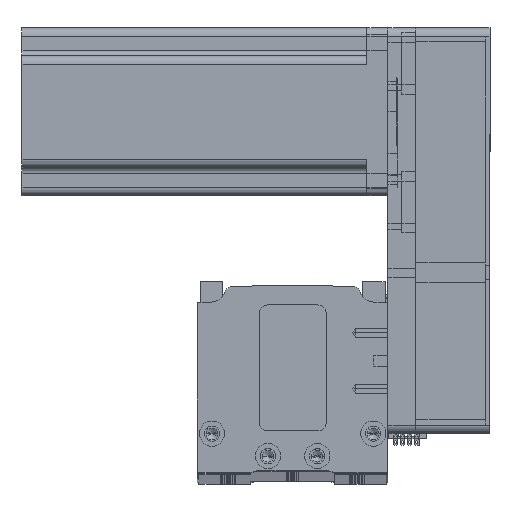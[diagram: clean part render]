
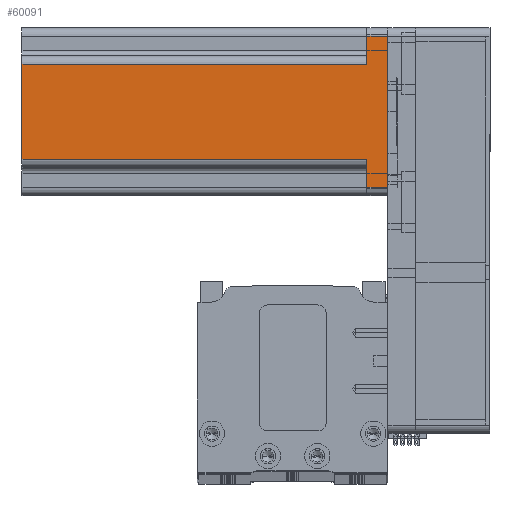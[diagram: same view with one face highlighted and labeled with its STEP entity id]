
A CAD part, top view. The second image highlights one B-rep face of the part: STEP entity #60091.
In plain terms, the highlighted planar face has unit normal (0, 0, 1) as drawn and (0, -1, 0) by its records, which use the part's own axes.
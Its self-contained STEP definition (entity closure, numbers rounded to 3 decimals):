
#582 = CARTESIAN_POINT ( 'NONE',  ( -27., -30., 7.5 ) ) ;
#1239 = EDGE_CURVE ( 'NONE', #48430, #41632, #9433, .T. ) ;
#2357 = VECTOR ( 'NONE', #40440, 1000. ) ;
#3989 = DIRECTION ( 'NONE',  ( 0., 0., 1. ) ) ;
#4773 = ORIENTED_EDGE ( 'NONE', *, *, #48860, .T. ) ;
#5282 = CARTESIAN_POINT ( 'NONE',  ( 17., -30., 7.5 ) ) ;
#6566 = EDGE_CURVE ( 'NONE', #22320, #49898, #38811, .T. ) ;
#8190 = DIRECTION ( 'NONE',  ( 1., 0., 0. ) ) ;
#9433 = LINE ( 'NONE', #35932, #37777 ) ;
#10395 = CARTESIAN_POINT ( 'NONE',  ( 27., -30., 130.7 ) ) ;
#11370 = VECTOR ( 'NONE', #25682, 1000. ) ;
#11474 = VERTEX_POINT ( 'NONE', #43315 ) ;
#15448 = FACE_OUTER_BOUND ( 'NONE', #47458, .T. ) ;
#15662 = DIRECTION ( 'NONE',  ( 0., 1., 0. ) ) ;
#16541 = LINE ( 'NONE', #61700, #2357 ) ;
#17163 = ORIENTED_EDGE ( 'NONE', *, *, #67744, .T. ) ;
#18056 = CARTESIAN_POINT ( 'NONE',  ( -17., -30., 130.7 ) ) ;
#18655 = CARTESIAN_POINT ( 'NONE',  ( 30., -30., 0. ) ) ;
#19705 = CARTESIAN_POINT ( 'NONE',  ( 30., -30., 130.7 ) ) ;
#22136 = CARTESIAN_POINT ( 'NONE',  ( -17., -30., 7.5 ) ) ;
#22320 = VERTEX_POINT ( 'NONE', #32252 ) ;
#23359 = LINE ( 'NONE', #10395, #35913 ) ;
#23563 = VERTEX_POINT ( 'NONE', #45493 ) ;
#24409 = LINE ( 'NONE', #19705, #36944 ) ;
#24634 = VECTOR ( 'NONE', #28547, 1000. ) ;
#25587 = ORIENTED_EDGE ( 'NONE', *, *, #1239, .T. ) ;
#25682 = DIRECTION ( 'NONE',  ( 0., 0., -1. ) ) ;
#26135 = PLANE ( 'NONE',  #47982 ) ;
#27554 = ORIENTED_EDGE ( 'NONE', *, *, #52899, .T. ) ;
#28547 = DIRECTION ( 'NONE',  ( 0., 0., -1. ) ) ;
#29235 = CARTESIAN_POINT ( 'NONE',  ( -20., -30., 7.5 ) ) ;
#31033 = CARTESIAN_POINT ( 'NONE',  ( -27., -30., 130.7 ) ) ;
#31082 = ORIENTED_EDGE ( 'NONE', *, *, #34842, .F. ) ;
#31769 = EDGE_CURVE ( 'NONE', #11474, #23563, #23359, .T. ) ;
#32252 = CARTESIAN_POINT ( 'NONE',  ( -17., -30., 130.7 ) ) ;
#33969 = CARTESIAN_POINT ( 'NONE',  ( 17., -30., 130.7 ) ) ;
#34842 = EDGE_CURVE ( 'NONE', #53542, #49898, #51114, .T. ) ;
#35913 = VECTOR ( 'NONE', #53040, 1000. ) ;
#35932 = CARTESIAN_POINT ( 'NONE',  ( 17., -30., 130.7 ) ) ;
#36944 = VECTOR ( 'NONE', #62419, 1000. ) ;
#37777 = VECTOR ( 'NONE', #3989, 1000. ) ;
#38811 = LINE ( 'NONE', #18056, #24634 ) ;
#39746 = ORIENTED_EDGE ( 'NONE', *, *, #31769, .T. ) ;
#40440 = DIRECTION ( 'NONE',  ( -1., 0., 0. ) ) ;
#41632 = VERTEX_POINT ( 'NONE', #33969 ) ;
#43315 = CARTESIAN_POINT ( 'NONE',  ( 27., -30., 0. ) ) ;
#45493 = CARTESIAN_POINT ( 'NONE',  ( 27., -30., 7.5 ) ) ;
#47458 = EDGE_LOOP ( 'NONE', ( #60602, #49615, #31082, #4773, #17163, #39746, #27554, #25587 ) ) ;
#47610 = CARTESIAN_POINT ( 'NONE',  ( 30., -30., 130.7 ) ) ;
#47982 = AXIS2_PLACEMENT_3D ( 'NONE', #47610, #15662, #52944 ) ;
#48430 = VERTEX_POINT ( 'NONE', #5282 ) ;
#48860 = EDGE_CURVE ( 'NONE', #53542, #52140, #68100, .T. ) ;
#49438 = VECTOR ( 'NONE', #55840, 1000. ) ;
#49615 = ORIENTED_EDGE ( 'NONE', *, *, #6566, .T. ) ;
#49898 = VERTEX_POINT ( 'NONE', #22136 ) ;
#51114 = LINE ( 'NONE', #29235, #49438 ) ;
#52140 = VERTEX_POINT ( 'NONE', #65283 ) ;
#52899 = EDGE_CURVE ( 'NONE', #23563, #48430, #16541, .T. ) ;
#52944 = DIRECTION ( 'NONE',  ( -1., 0., 0. ) ) ;
#53040 = DIRECTION ( 'NONE',  ( 0., 0., 1. ) ) ;
#53542 = VERTEX_POINT ( 'NONE', #582 ) ;
#55840 = DIRECTION ( 'NONE',  ( 1., 0., 0. ) ) ;
#60091 = ADVANCED_FACE ( 'NONE', ( #15448 ), #26135, .F. ) ;
#60602 = ORIENTED_EDGE ( 'NONE', *, *, #61414, .F. ) ;
#61414 = EDGE_CURVE ( 'NONE', #22320, #41632, #24409, .T. ) ;
#61700 = CARTESIAN_POINT ( 'NONE',  ( 20., -30., 7.5 ) ) ;
#62419 = DIRECTION ( 'NONE',  ( 1., 0., 0. ) ) ;
#63677 = VECTOR ( 'NONE', #8190, 1000. ) ;
#65283 = CARTESIAN_POINT ( 'NONE',  ( -27., -30., 0. ) ) ;
#65331 = LINE ( 'NONE', #18655, #63677 ) ;
#67744 = EDGE_CURVE ( 'NONE', #52140, #11474, #65331, .T. ) ;
#68100 = LINE ( 'NONE', #31033, #11370 ) ;
